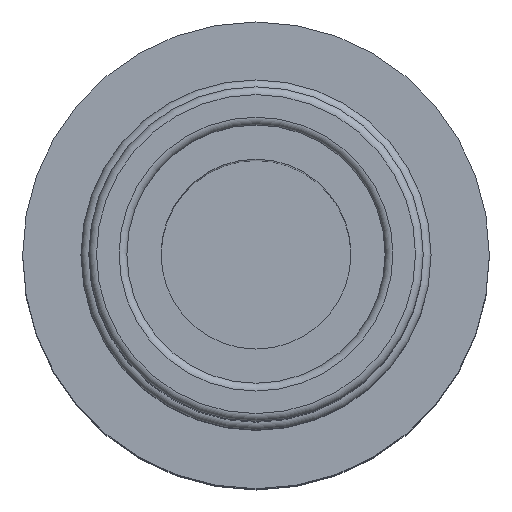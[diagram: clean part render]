
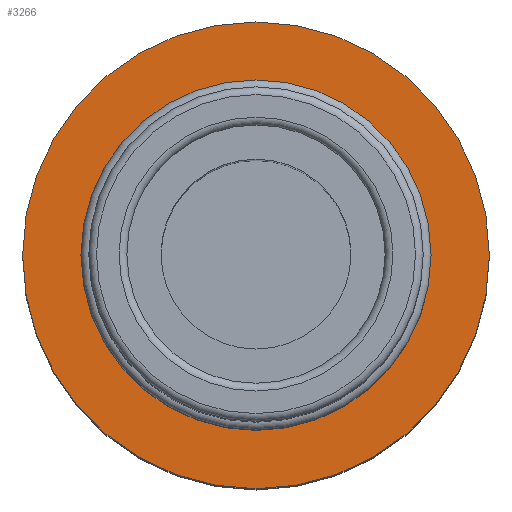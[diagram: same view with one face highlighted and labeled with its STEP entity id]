
A CAD part, top view. The second image highlights one B-rep face of the part: STEP entity #3266.
In plain terms, the highlighted planar face has unit normal (0, 0, 1).
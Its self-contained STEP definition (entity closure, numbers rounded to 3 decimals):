
#261=FACE_BOUND('',#684,.T.);
#335=PLANE('',#3609);
#498=FACE_OUTER_BOUND('',#683,.T.);
#683=EDGE_LOOP('',(#2986));
#684=EDGE_LOOP('',(#2987));
#1174=CIRCLE('',#3608,5.625);
#1175=CIRCLE('',#3610,7.5);
#1518=VERTEX_POINT('',#7376);
#1519=VERTEX_POINT('',#7380);
#2009=EDGE_CURVE('',#1518,#1518,#1174,.T.);
#2010=EDGE_CURVE('',#1519,#1519,#1175,.T.);
#2986=ORIENTED_EDGE('',*,*,#2010,.F.);
#2987=ORIENTED_EDGE('',*,*,#2009,.F.);
#3266=ADVANCED_FACE('',(#498,#261),#335,.F.);
#3608=AXIS2_PLACEMENT_3D('',#7378,#4400,#4401);
#3609=AXIS2_PLACEMENT_3D('',#7379,#4402,#4403);
#3610=AXIS2_PLACEMENT_3D('',#7381,#4404,#4405);
#4400=DIRECTION('center_axis',(0.,0.,1.));
#4401=DIRECTION('ref_axis',(-1.,0.,0.));
#4402=DIRECTION('center_axis',(0.,0.,-1.));
#4403=DIRECTION('ref_axis',(-1.,0.,0.));
#4404=DIRECTION('center_axis',(0.,0.,-1.));
#4405=DIRECTION('ref_axis',(1.,0.,0.));
#7376=CARTESIAN_POINT('',(5.625,0.,0.));
#7378=CARTESIAN_POINT('Origin',(0.,0.,0.));
#7379=CARTESIAN_POINT('Origin',(0.,0.,0.));
#7380=CARTESIAN_POINT('',(-7.5,0.,0.));
#7381=CARTESIAN_POINT('Origin',(0.,0.,0.));
